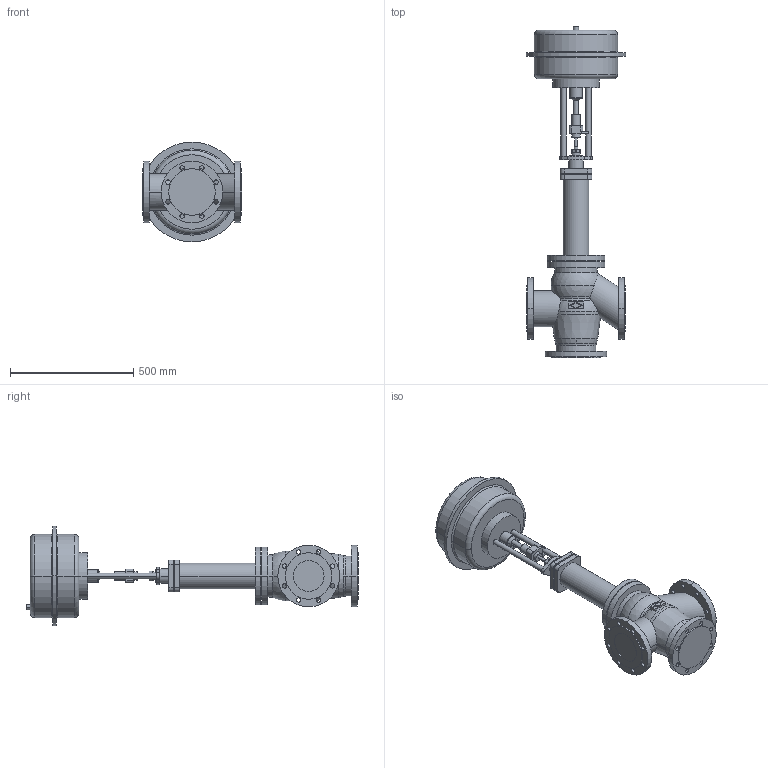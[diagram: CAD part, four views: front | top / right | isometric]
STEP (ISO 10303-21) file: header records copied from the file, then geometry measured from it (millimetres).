
FILE_DESCRIPTION(('OneSpaceDesigner STEP Export'),'2;1');
FILE_NAME('c000000717.stp','2007-01-26T13:16:06',(''),(''),'OneSpace Designer STEP processor for AP214 (Solid Model)','OneSpace Designer 14.00B 27-May-2006 (C) CoCreate Software GmbH','');
FILE_SCHEMA(('AUTOMOTIVE_DESIGN { 1 0 10303 214 1 1 1 1 }'));
Length unit declared in the file: millimetre
Products named in the file (2): 1; 2
Bounding box: 405 x 1346.2 x 405 mm (x, y, z)
Volume: 41277343.3 mm3; surface area: 1434444.1 mm2
Topology: 2 solids, 2 shells, 254 faces, 639 edges, 417 vertices
Faces by surface type: cylinder 136, plane 88, torus 18, sphere 8, cone 4
Entity records: 7037 total; most frequent: CARTESIAN_POINT 1404, ORIENTED_EDGE 1262, DIRECTION 1030, EDGE_CURVE 631, VERTEX_POINT 417, AXIS2_PLACEMENT_3D 380, EDGE_LOOP 338, VECTOR 270
